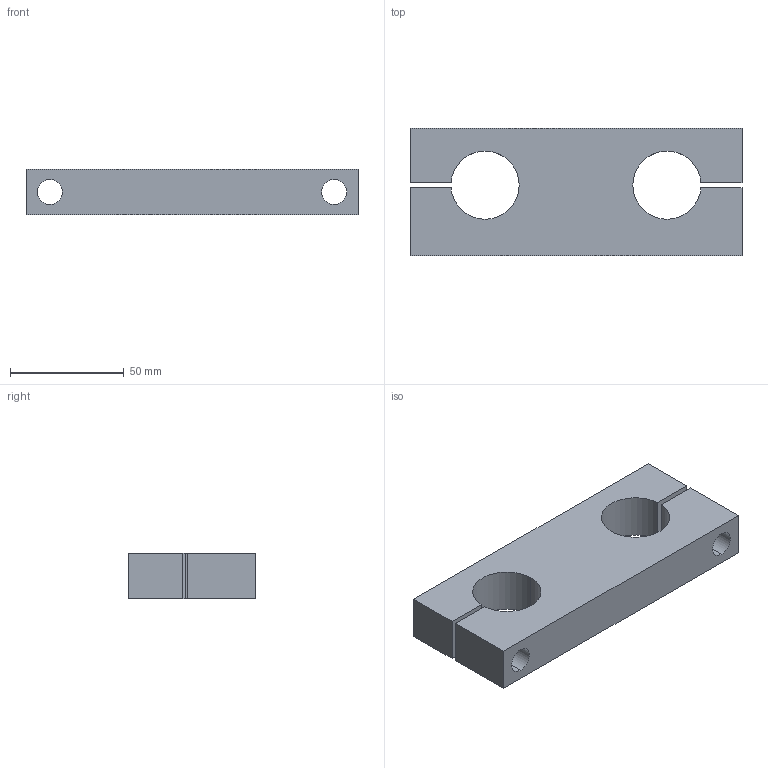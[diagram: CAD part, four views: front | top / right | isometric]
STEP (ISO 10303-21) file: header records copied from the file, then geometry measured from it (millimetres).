
FILE_DESCRIPTION (( 'STEP AP214' ), '1' );
FILE_NAME ('KTAC-30.step', '2020-03-04T13:12:40', ( '' ), ( '' ), 'SwSTEP 2.0', 'SolidWorks 2019', '' );
FILE_SCHEMA (( 'AUTOMOTIVE_DESIGN' ));
Length unit declared in the file: millimetre
Products named in the file (1): KTAC-30
Bounding box: 146 x 56 x 20 mm (x, y, z)
Volume: 119139.7 mm3; surface area: 30064 mm2
Topology: 1 solids, 1 shells, 35 faces, 89 edges, 57 vertices
Faces by surface type: cylinder 17, plane 14, cone 4
Entity records: 1103 total; most frequent: DIRECTION 195, CARTESIAN_POINT 180, ORIENTED_EDGE 174, EDGE_CURVE 87, AXIS2_PLACEMENT_3D 72, VERTEX_POINT 57, LINE 51, VECTOR 51
